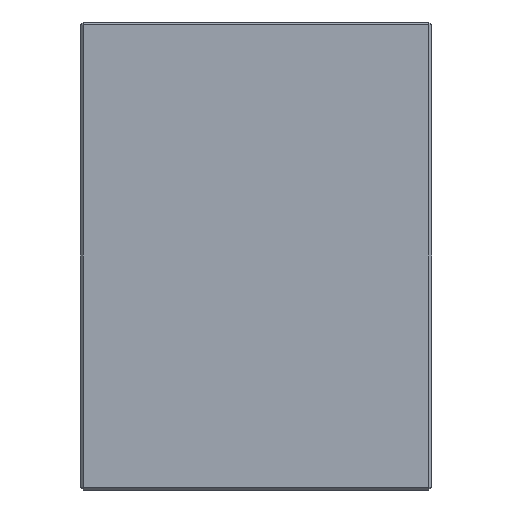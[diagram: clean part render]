
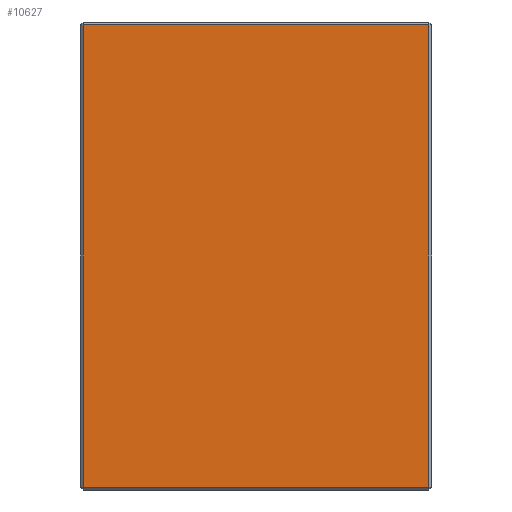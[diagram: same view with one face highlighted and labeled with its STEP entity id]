
A CAD part, left-side view. The second image highlights one B-rep face of the part: STEP entity #10627.
In plain terms, the highlighted planar face has unit normal (-1, 0, 0) as drawn and (0, 1, 0) by its records, which use the part's own axes.
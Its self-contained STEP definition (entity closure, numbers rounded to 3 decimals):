
#1348=PLANE('',#10971);
#1933=FACE_OUTER_BOUND('',#2569,.T.);
#2569=EDGE_LOOP('',(#9981,#9982,#9983,#9984));
#3380=LINE('',#21470,#4199);
#3385=LINE('',#21479,#4204);
#3386=LINE('',#21481,#4205);
#3387=LINE('',#21483,#4206);
#4199=VECTOR('',#12357,10.);
#4204=VECTOR('',#12368,10.);
#4205=VECTOR('',#12371,10.);
#4206=VECTOR('',#12374,10.);
#5302=VERTEX_POINT('',#21440);
#5305=VERTEX_POINT('',#21455);
#5307=VERTEX_POINT('',#21464);
#5308=VERTEX_POINT('',#21472);
#6863=EDGE_CURVE('',#5302,#5307,#3380,.T.);
#6868=EDGE_CURVE('',#5307,#5308,#3385,.T.);
#6869=EDGE_CURVE('',#5308,#5305,#3386,.T.);
#6870=EDGE_CURVE('',#5305,#5302,#3387,.T.);
#9981=ORIENTED_EDGE('',*,*,#6863,.F.);
#9982=ORIENTED_EDGE('',*,*,#6870,.F.);
#9983=ORIENTED_EDGE('',*,*,#6869,.F.);
#9984=ORIENTED_EDGE('',*,*,#6868,.F.);
#10627=ADVANCED_FACE('',(#1933),#1348,.T.);
#10971=AXIS2_PLACEMENT_3D('',#21500,#12393,#12394);
#12357=DIRECTION('',(0.,0.,1.));
#12368=DIRECTION('',(-1.,0.,0.));
#12371=DIRECTION('',(0.,0.,-1.));
#12374=DIRECTION('',(1.,0.,0.));
#12393=DIRECTION('center_axis',(0.,1.,0.));
#12394=DIRECTION('ref_axis',(0.,0.,1.));
#21440=CARTESIAN_POINT('',(119.,125.,1.));
#21455=CARTESIAN_POINT('',(1.,125.,1.));
#21464=CARTESIAN_POINT('',(119.,125.,159.));
#21470=CARTESIAN_POINT('',(119.,125.,120.));
#21472=CARTESIAN_POINT('',(1.,125.,159.));
#21479=CARTESIAN_POINT('',(30.,125.,159.));
#21481=CARTESIAN_POINT('',(1.,125.,40.));
#21483=CARTESIAN_POINT('',(90.,125.,1.));
#21500=CARTESIAN_POINT('Origin',(60.,125.,80.));
